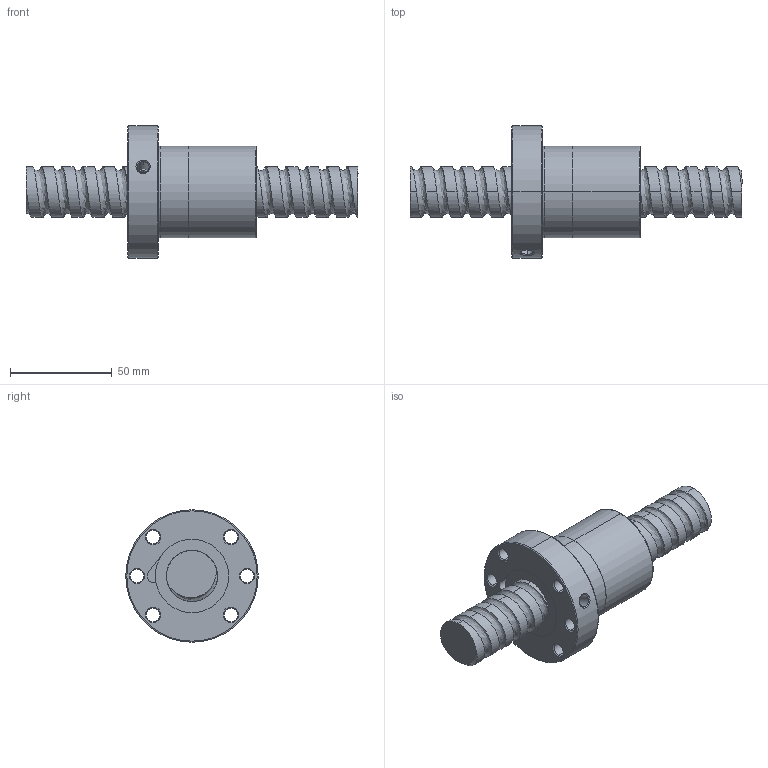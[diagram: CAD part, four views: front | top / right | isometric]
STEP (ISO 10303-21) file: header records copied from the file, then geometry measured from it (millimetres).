
FILE_DESCRIPTION (( 'STEP AP214' ), '1' );
FILE_NAME ('FSDC02510T4-D-A.STEP', '2010-06-25T11:29:30', ( 'XPAUTO' ), ( 'XPAUTO' ), 'SwSTEP 2.0', 'SolidWorks 2007', '' );
FILE_SCHEMA (( 'AUTOMOTIVE_DESIGN' ));
Length unit declared in the file: millimetre
Products named in the file (3): FSDC02510T4-D-A.sldasm-Part-2_預設; FSDC02510T4-D-A.sldasm-Part-1_預設; FSDC02510T4-D-A
Assembly tree (2 placements, depth 2):
  FSDC02510T4-D-A
    FSDC02510T4-D-A.sldasm-Part-2_預設
    FSDC02510T4-D-A.sldasm-Part-1_預設
Bounding box: 163 x 65 x 65 mm (x, y, z)
Volume: 162556.4 mm3; surface area: 37885.5 mm2
Topology: 2 solids, 2 shells, 123 faces, 307 edges, 193 vertices
Faces by surface type: cylinder 72, cone 24, plane 16, torus 6, bspline 5
Entity records: 25365 total; most frequent: CARTESIAN_POINT 22413, ORIENTED_EDGE 614, DIRECTION 579, EDGE_CURVE 307, AXIS2_PLACEMENT_3D 238, VERTEX_POINT 193, EDGE_LOOP 144, ADVANCED_FACE 123
